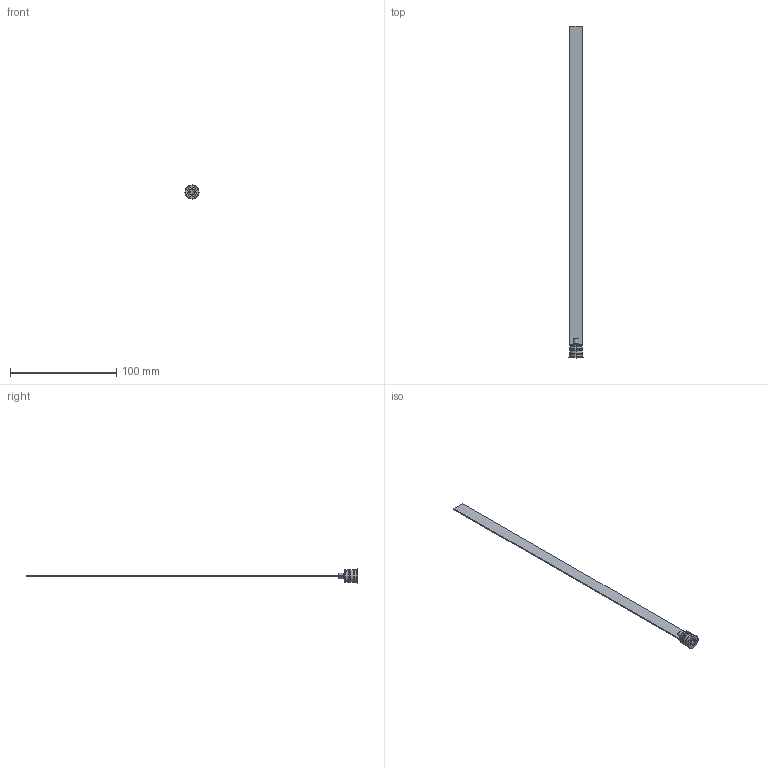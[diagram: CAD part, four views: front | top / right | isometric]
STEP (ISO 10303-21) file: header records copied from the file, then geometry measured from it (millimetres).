
FILE_DESCRIPTION (( 'STEP AP203' ), '1' );
FILE_NAME ('RL-12Fx300.STEP', '2015-12-02T10:16:48', ( 'Balzi' ), ( '' ), 'SwSTEP 2.0', 'SolidWorks 2015', '' );
FILE_SCHEMA (( 'CONFIG_CONTROL_DESIGN' ));
Length unit declared in the file: millimetre
Products named in the file (1): RL-12Fx300
Bounding box: 13.3 x 312.5 x 13.3 mm (x, y, z)
Volume: 4903.4 mm3; surface area: 8755.9 mm2
Topology: 1 solids, 1 shells, 72 faces, 171 edges, 105 vertices
Faces by surface type: plane 30, cylinder 17, cone 17, torus 8
Entity records: 2165 total; most frequent: CARTESIAN_POINT 399, DIRECTION 370, ORIENTED_EDGE 342, EDGE_CURVE 171, AXIS2_PLACEMENT_3D 140, VERTEX_POINT 105, VECTOR 90, LINE 90
